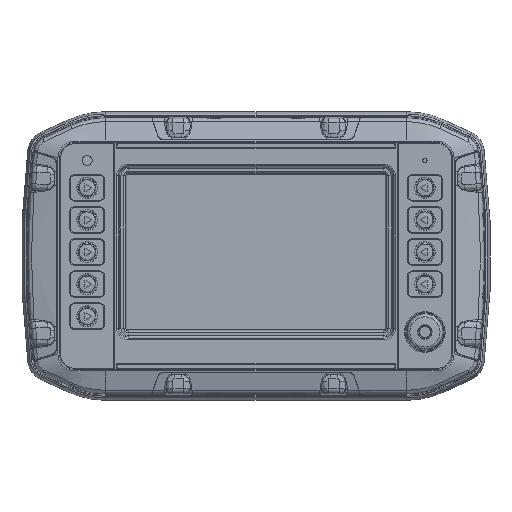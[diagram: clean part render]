
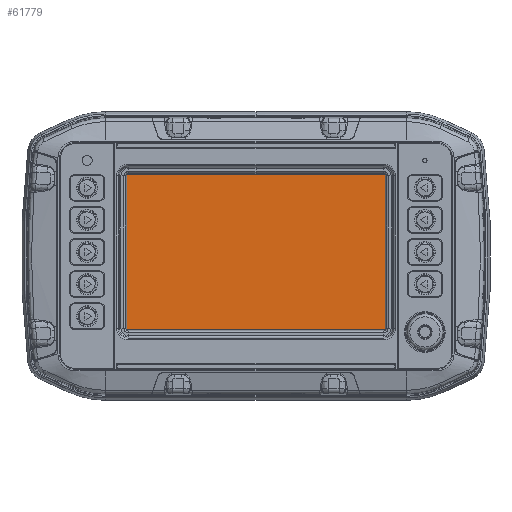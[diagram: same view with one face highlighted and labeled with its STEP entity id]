
A CAD part, top view. The second image highlights one B-rep face of the part: STEP entity #61779.
In plain terms, the highlighted planar face has unit normal (0, 0, 1).
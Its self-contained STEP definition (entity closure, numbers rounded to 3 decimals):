
#880 = EDGE_CURVE ( 'NONE', #13923, #91380, #48137, .T. ) ;
#921 = EDGE_CURVE ( 'NONE', #110106, #15100, #69644, .T. ) ;
#1523 = ORIENTED_EDGE ( 'NONE', *, *, #65293, .T. ) ;
#1909 = CARTESIAN_POINT ( 'NONE',  ( 6.029, 50.311, 7.9 ) ) ;
#4644 = DIRECTION ( 'NONE',  ( 0., 0., 1. ) ) ;
#7265 = CARTESIAN_POINT ( 'NONE',  ( -75.5, -43.7, 7.9 ) ) ;
#8242 = CARTESIAN_POINT ( 'NONE',  ( -75.5, -43.7, 7.9 ) ) ;
#8376 = CIRCLE ( 'NONE', #24680, 1. ) ;
#9517 = ORIENTED_EDGE ( 'NONE', *, *, #53479, .T. ) ;
#10523 = DIRECTION ( 'NONE',  ( 0., 0., 1. ) ) ;
#10799 = DIRECTION ( 'NONE',  ( 0., 0., 1. ) ) ;
#11077 = DIRECTION ( 'NONE',  ( -1., 0., 0. ) ) ;
#13923 = VERTEX_POINT ( 'NONE', #39167 ) ;
#14506 = CIRCLE ( 'NONE', #18077, 1. ) ;
#15100 = VERTEX_POINT ( 'NONE', #52180 ) ;
#18077 = AXIS2_PLACEMENT_3D ( 'NONE', #65696, #10799, #74924 ) ;
#19903 = DIRECTION ( 'NONE',  ( -1., 0., 0. ) ) ;
#19941 = PLANE ( 'NONE',  #113707 ) ;
#23801 = VECTOR ( 'NONE', #19903, 1000. ) ;
#24305 = ORIENTED_EDGE ( 'NONE', *, *, #880, .T. ) ;
#24680 = AXIS2_PLACEMENT_3D ( 'NONE', #65439, #10523, #74660 ) ;
#24882 = VERTEX_POINT ( 'NONE', #8242 ) ;
#26274 = CARTESIAN_POINT ( 'NONE',  ( 75.5, -43.7, 7.9 ) ) ;
#26675 = AXIS2_PLACEMENT_3D ( 'NONE', #29527, #93589, #38706 ) ;
#29527 = CARTESIAN_POINT ( 'NONE',  ( 75.5, -42.7, 7.9 ) ) ;
#30980 = ORIENTED_EDGE ( 'NONE', *, *, #921, .T. ) ;
#33545 = LINE ( 'NONE', #111287, #57882 ) ;
#38706 = DIRECTION ( 'NONE',  ( -1., 0., 0. ) ) ;
#38718 = EDGE_LOOP ( 'NONE', ( #108063, #69630, #30980, #9517, #69092, #24305, #85357, #1523 ) ) ;
#39167 = CARTESIAN_POINT ( 'NONE',  ( 75.5, 48.34, 7.9 ) ) ;
#39659 = VERTEX_POINT ( 'NONE', #66172 ) ;
#39880 = VERTEX_POINT ( 'NONE', #91417 ) ;
#41222 = CARTESIAN_POINT ( 'NONE',  ( -76.5, -42.7, 7.9 ) ) ;
#47083 = CARTESIAN_POINT ( 'NONE',  ( -75.5, 48.34, 7.9 ) ) ;
#47293 = EDGE_CURVE ( 'NONE', #91380, #39880, #8376, .T. ) ;
#48137 = LINE ( 'NONE', #47083, #23801 ) ;
#52180 = CARTESIAN_POINT ( 'NONE',  ( 76.5, -42.7, 7.9 ) ) ;
#53479 = EDGE_CURVE ( 'NONE', #15100, #92115, #33545, .T. ) ;
#54654 = LINE ( 'NONE', #41222, #100565 ) ;
#56277 = DIRECTION ( 'NONE',  ( 0., 1., 0. ) ) ;
#56288 = VECTOR ( 'NONE', #62182, 1000. ) ;
#57882 = VECTOR ( 'NONE', #56277, 1000. ) ;
#59524 = CARTESIAN_POINT ( 'NONE',  ( -75.5, -42.7, 7.9 ) ) ;
#59578 = DIRECTION ( 'NONE',  ( 0., -1., 0. ) ) ;
#61779 = ADVANCED_FACE ( 'NONE', ( #83815 ), #19941, .F. ) ;
#62182 = DIRECTION ( 'NONE',  ( 1., 0., 0. ) ) ;
#65293 = EDGE_CURVE ( 'NONE', #39880, #39659, #54654, .T. ) ;
#65439 = CARTESIAN_POINT ( 'NONE',  ( -75.5, 47.34, 7.9 ) ) ;
#65696 = CARTESIAN_POINT ( 'NONE',  ( 75.5, 47.34, 7.9 ) ) ;
#65989 = DIRECTION ( 'NONE',  ( 0., 0., -1. ) ) ;
#66172 = CARTESIAN_POINT ( 'NONE',  ( -76.5, -42.7, 7.9 ) ) ;
#68766 = DIRECTION ( 'NONE',  ( -1., 0., 0. ) ) ;
#69092 = ORIENTED_EDGE ( 'NONE', *, *, #84053, .T. ) ;
#69630 = ORIENTED_EDGE ( 'NONE', *, *, #93346, .T. ) ;
#69644 = CIRCLE ( 'NONE', #26675, 1. ) ;
#71240 = CARTESIAN_POINT ( 'NONE',  ( -75.5, 48.34, 7.9 ) ) ;
#74660 = DIRECTION ( 'NONE',  ( 1., 0., 0. ) ) ;
#74924 = DIRECTION ( 'NONE',  ( -1., 0., 0. ) ) ;
#82091 = EDGE_CURVE ( 'NONE', #39659, #24882, #100881, .T. ) ;
#83815 = FACE_OUTER_BOUND ( 'NONE', #38718, .T. ) ;
#84053 = EDGE_CURVE ( 'NONE', #92115, #13923, #14506, .T. ) ;
#85357 = ORIENTED_EDGE ( 'NONE', *, *, #47293, .T. ) ;
#86556 = CARTESIAN_POINT ( 'NONE',  ( 76.5, 47.34, 7.9 ) ) ;
#91380 = VERTEX_POINT ( 'NONE', #71240 ) ;
#91417 = CARTESIAN_POINT ( 'NONE',  ( -76.5, 47.34, 7.9 ) ) ;
#92115 = VERTEX_POINT ( 'NONE', #86556 ) ;
#93346 = EDGE_CURVE ( 'NONE', #24882, #110106, #102214, .T. ) ;
#93589 = DIRECTION ( 'NONE',  ( 0., 0., 1. ) ) ;
#100565 = VECTOR ( 'NONE', #59578, 1000. ) ;
#100881 = CIRCLE ( 'NONE', #106192, 1. ) ;
#102214 = LINE ( 'NONE', #7265, #56288 ) ;
#106192 = AXIS2_PLACEMENT_3D ( 'NONE', #59524, #4644, #68766 ) ;
#108063 = ORIENTED_EDGE ( 'NONE', *, *, #82091, .T. ) ;
#110106 = VERTEX_POINT ( 'NONE', #26274 ) ;
#111287 = CARTESIAN_POINT ( 'NONE',  ( 76.5, -42.7, 7.9 ) ) ;
#113707 = AXIS2_PLACEMENT_3D ( 'NONE', #1909, #65989, #11077 ) ;
